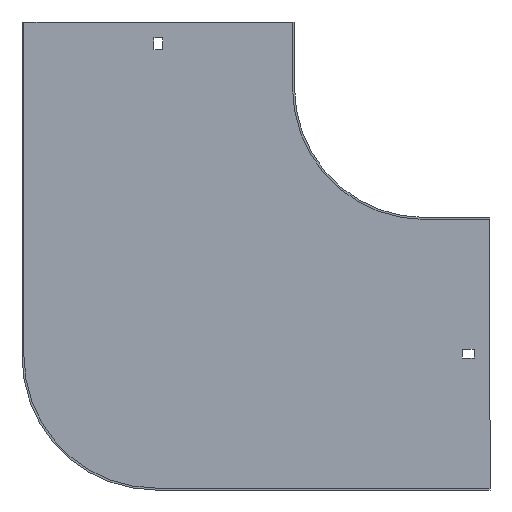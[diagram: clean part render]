
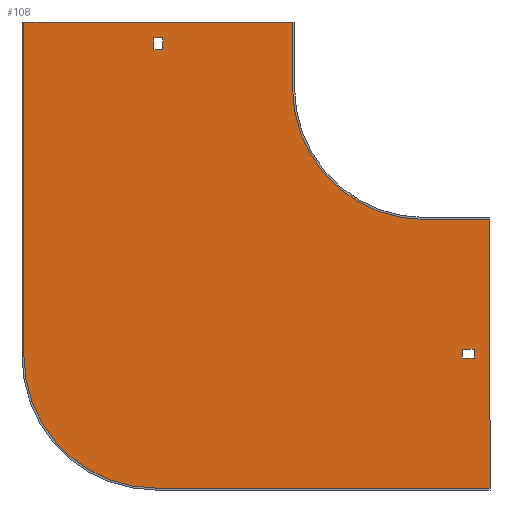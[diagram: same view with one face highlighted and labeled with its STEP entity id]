
A CAD part, front view. The second image highlights one B-rep face of the part: STEP entity #108.
In plain terms, the highlighted planar face has unit normal (0, -1, 0).
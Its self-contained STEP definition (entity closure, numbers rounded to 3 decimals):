
#24 = CARTESIAN_POINT ( 'NONE',  ( -305.5, -1.5, 50. ) ) ;
#32 = CARTESIAN_POINT ( 'NONE',  ( -198.75, -1.5, 29. ) ) ;
#39 = DIRECTION ( 'NONE',  ( 1., 0., 0. ) ) ;
#43 = LINE ( 'NONE', #641, #796 ) ;
#51 = VECTOR ( 'NONE', #268, 1000. ) ;
#52 = CARTESIAN_POINT ( 'NONE',  ( -204., -1.5, -204. ) ) ;
#55 = LINE ( 'NONE', #107, #812 ) ;
#74 = CARTESIAN_POINT ( 'NONE',  ( -205.25, -1.5, 38. ) ) ;
#80 = LINE ( 'NONE', #348, #710 ) ;
#83 = ORIENTED_EDGE ( 'NONE', *, *, #788, .T. ) ;
#86 = DIRECTION ( 'NONE',  ( 1., 0., 0. ) ) ;
#92 = LINE ( 'NONE', #24, #473 ) ;
#94 = AXIS2_PLACEMENT_3D ( 'NONE', #718, #527, #531 ) ;
#96 = LINE ( 'NONE', #643, #269 ) ;
#97 = VERTEX_POINT ( 'NONE', #74 ) ;
#99 = DIRECTION ( 'NONE',  ( 0., 0., 1. ) ) ;
#102 = LINE ( 'NONE', #649, #148 ) ;
#103 = VECTOR ( 'NONE', #140, 1000. ) ;
#104 = CARTESIAN_POINT ( 'NONE',  ( 29., -1.5, -198.75 ) ) ;
#107 = CARTESIAN_POINT ( 'NONE',  ( -198.75, -1.5, 0. ) ) ;
#108 = ADVANCED_FACE ( 'NONE', ( #590, #132, #797 ), #397, .T. ) ;
#111 = CARTESIAN_POINT ( 'NONE',  ( 38., -1.5, -198.75 ) ) ;
#113 = LINE ( 'NONE', #432, #516 ) ;
#117 = EDGE_CURVE ( 'NONE', #471, #504, #92, .T. ) ;
#119 = EDGE_CURVE ( 'NONE', #504, #456, #290, .T. ) ;
#126 = ORIENTED_EDGE ( 'NONE', *, *, #358, .F. ) ;
#129 = AXIS2_PLACEMENT_3D ( 'NONE', #747, #802, #278 ) ;
#132 = FACE_OUTER_BOUND ( 'NONE', #313, .T. ) ;
#134 = CARTESIAN_POINT ( 'NONE',  ( -205.25, -1.5, 0. ) ) ;
#140 = DIRECTION ( 'NONE',  ( -1., 0., 0. ) ) ;
#143 = CARTESIAN_POINT ( 'NONE',  ( -304., -1.5, -204. ) ) ;
#148 = VECTOR ( 'NONE', #514, 1000. ) ;
#150 = CARTESIAN_POINT ( 'NONE',  ( 50., -1.5, -304. ) ) ;
#165 = DIRECTION ( 'NONE',  ( 0., 0., -1. ) ) ;
#174 = CARTESIAN_POINT ( 'NONE',  ( 0., -1.5, -100. ) ) ;
#186 = LINE ( 'NONE', #534, #218 ) ;
#192 = VERTEX_POINT ( 'NONE', #353 ) ;
#195 = ORIENTED_EDGE ( 'NONE', *, *, #119, .F. ) ;
#201 = LINE ( 'NONE', #612, #51 ) ;
#210 = LINE ( 'NONE', #143, #635 ) ;
#217 = AXIS2_PLACEMENT_3D ( 'NONE', #52, #830, #165 ) ;
#218 = VECTOR ( 'NONE', #466, 1000. ) ;
#236 = LINE ( 'NONE', #637, #752 ) ;
#237 = EDGE_CURVE ( 'NONE', #337, #192, #518, .T. ) ;
#249 = CARTESIAN_POINT ( 'NONE',  ( -198.75, -1.5, 38. ) ) ;
#256 = VERTEX_POINT ( 'NONE', #104 ) ;
#265 = EDGE_CURVE ( 'NONE', #565, #699, #113, .T. ) ;
#268 = DIRECTION ( 'NONE',  ( 0., 0., -1. ) ) ;
#269 = VECTOR ( 'NONE', #769, 1000. ) ;
#278 = DIRECTION ( 'NONE',  ( 0., 0., -1. ) ) ;
#290 = LINE ( 'NONE', #806, #297 ) ;
#297 = VECTOR ( 'NONE', #613, 1000. ) ;
#300 = EDGE_CURVE ( 'NONE', #831, #565, #43, .T. ) ;
#307 = DIRECTION ( 'NONE',  ( 1., 0., 0. ) ) ;
#311 = ORIENTED_EDGE ( 'NONE', *, *, #792, .F. ) ;
#313 = EDGE_LOOP ( 'NONE', ( #693, #775, #765, #126, #845, #711, #633, #195 ) ) ;
#319 = DIRECTION ( 'NONE',  ( 0., 0., -1. ) ) ;
#323 = EDGE_CURVE ( 'NONE', #485, #787, #96, .T. ) ;
#328 = EDGE_CURVE ( 'NONE', #97, #402, #236, .T. ) ;
#332 = DIRECTION ( 'NONE',  ( 0., 0., 1. ) ) ;
#334 = LINE ( 'NONE', #150, #103 ) ;
#337 = VERTEX_POINT ( 'NONE', #378 ) ;
#348 = CARTESIAN_POINT ( 'NONE',  ( 0., -1.5, -198.75 ) ) ;
#353 = CARTESIAN_POINT ( 'NONE',  ( -304., -1.5, -204. ) ) ;
#358 = EDGE_CURVE ( 'NONE', #368, #337, #334, .T. ) ;
#359 = VECTOR ( 'NONE', #332, 1000. ) ;
#360 = ORIENTED_EDGE ( 'NONE', *, *, #300, .F. ) ;
#368 = VERTEX_POINT ( 'NONE', #472 ) ;
#378 = CARTESIAN_POINT ( 'NONE',  ( -204., -1.5, -304. ) ) ;
#390 = CARTESIAN_POINT ( 'NONE',  ( 29., -1.5, -205.25 ) ) ;
#397 = PLANE ( 'NONE',  #129 ) ;
#398 = VERTEX_POINT ( 'NONE', #658 ) ;
#400 = CARTESIAN_POINT ( 'NONE',  ( -304., -1.5, 50. ) ) ;
#402 = VERTEX_POINT ( 'NONE', #249 ) ;
#407 = DIRECTION ( 'NONE',  ( 0., 0., 1. ) ) ;
#415 = CARTESIAN_POINT ( 'NONE',  ( -100., -1.5, 50. ) ) ;
#419 = EDGE_CURVE ( 'NONE', #398, #368, #186, .T. ) ;
#425 = EDGE_CURVE ( 'NONE', #256, #831, #201, .T. ) ;
#432 = CARTESIAN_POINT ( 'NONE',  ( 38., -1.5, 0. ) ) ;
#456 = VERTEX_POINT ( 'NONE', #668 ) ;
#465 = CARTESIAN_POINT ( 'NONE',  ( -205.25, -1.5, 29. ) ) ;
#466 = DIRECTION ( 'NONE',  ( 0., 0., -1. ) ) ;
#471 = VERTEX_POINT ( 'NONE', #400 ) ;
#472 = CARTESIAN_POINT ( 'NONE',  ( 50., -1.5, -304. ) ) ;
#473 = VECTOR ( 'NONE', #86, 1000. ) ;
#485 = VERTEX_POINT ( 'NONE', #32 ) ;
#504 = VERTEX_POINT ( 'NONE', #415 ) ;
#513 = ORIENTED_EDGE ( 'NONE', *, *, #425, .F. ) ;
#514 = DIRECTION ( 'NONE',  ( 1., 0., 0. ) ) ;
#516 = VECTOR ( 'NONE', #99, 1000. ) ;
#518 = CIRCLE ( 'NONE', #217, 100. ) ;
#527 = DIRECTION ( 'NONE',  ( 0., -1., 0. ) ) ;
#530 = ORIENTED_EDGE ( 'NONE', *, *, #265, .F. ) ;
#531 = DIRECTION ( 'NONE',  ( 0., 0., -1. ) ) ;
#534 = CARTESIAN_POINT ( 'NONE',  ( 50., -1.5, -98.5 ) ) ;
#537 = DIRECTION ( 'NONE',  ( -1., 0., 0. ) ) ;
#563 = ORIENTED_EDGE ( 'NONE', *, *, #659, .T. ) ;
#565 = VERTEX_POINT ( 'NONE', #820 ) ;
#590 = FACE_BOUND ( 'NONE', #774, .T. ) ;
#612 = CARTESIAN_POINT ( 'NONE',  ( 29., -1.5, 0. ) ) ;
#613 = DIRECTION ( 'NONE',  ( 0., 0., -1. ) ) ;
#627 = VERTEX_POINT ( 'NONE', #174 ) ;
#633 = ORIENTED_EDGE ( 'NONE', *, *, #855, .F. ) ;
#635 = VECTOR ( 'NONE', #407, 1000. ) ;
#637 = CARTESIAN_POINT ( 'NONE',  ( 0., -1.5, 38. ) ) ;
#640 = EDGE_CURVE ( 'NONE', #627, #398, #102, .T. ) ;
#641 = CARTESIAN_POINT ( 'NONE',  ( 0., -1.5, -205.25 ) ) ;
#643 = CARTESIAN_POINT ( 'NONE',  ( 0., -1.5, 29. ) ) ;
#649 = CARTESIAN_POINT ( 'NONE',  ( 0., -1.5, -100. ) ) ;
#658 = CARTESIAN_POINT ( 'NONE',  ( 50., -1.5, -100. ) ) ;
#659 = EDGE_CURVE ( 'NONE', #402, #485, #55, .T. ) ;
#668 = CARTESIAN_POINT ( 'NONE',  ( -100., -1.5, 0. ) ) ;
#693 = ORIENTED_EDGE ( 'NONE', *, *, #117, .F. ) ;
#699 = VERTEX_POINT ( 'NONE', #111 ) ;
#702 = EDGE_LOOP ( 'NONE', ( #832, #563, #762, #83 ) ) ;
#710 = VECTOR ( 'NONE', #537, 1000. ) ;
#711 = ORIENTED_EDGE ( 'NONE', *, *, #640, .F. ) ;
#714 = LINE ( 'NONE', #134, #359 ) ;
#718 = CARTESIAN_POINT ( 'NONE',  ( 0., -1.5, 0. ) ) ;
#747 = CARTESIAN_POINT ( 'NONE',  ( 0., -1.5, 0. ) ) ;
#752 = VECTOR ( 'NONE', #307, 1000. ) ;
#762 = ORIENTED_EDGE ( 'NONE', *, *, #323, .T. ) ;
#765 = ORIENTED_EDGE ( 'NONE', *, *, #237, .F. ) ;
#769 = DIRECTION ( 'NONE',  ( -1., 0., 0. ) ) ;
#774 = EDGE_LOOP ( 'NONE', ( #311, #530, #360, #513 ) ) ;
#775 = ORIENTED_EDGE ( 'NONE', *, *, #819, .F. ) ;
#787 = VERTEX_POINT ( 'NONE', #465 ) ;
#788 = EDGE_CURVE ( 'NONE', #787, #97, #714, .T. ) ;
#792 = EDGE_CURVE ( 'NONE', #699, #256, #80, .T. ) ;
#796 = VECTOR ( 'NONE', #39, 1000. ) ;
#797 = FACE_BOUND ( 'NONE', #702, .T. ) ;
#802 = DIRECTION ( 'NONE',  ( 0., -1., 0. ) ) ;
#806 = CARTESIAN_POINT ( 'NONE',  ( -100., -1.5, 50. ) ) ;
#812 = VECTOR ( 'NONE', #319, 1000. ) ;
#818 = CIRCLE ( 'NONE', #94, 100. ) ;
#819 = EDGE_CURVE ( 'NONE', #192, #471, #210, .T. ) ;
#820 = CARTESIAN_POINT ( 'NONE',  ( 38., -1.5, -205.25 ) ) ;
#830 = DIRECTION ( 'NONE',  ( 0., 1., 0. ) ) ;
#831 = VERTEX_POINT ( 'NONE', #390 ) ;
#832 = ORIENTED_EDGE ( 'NONE', *, *, #328, .T. ) ;
#845 = ORIENTED_EDGE ( 'NONE', *, *, #419, .F. ) ;
#855 = EDGE_CURVE ( 'NONE', #456, #627, #818, .T. ) ;
